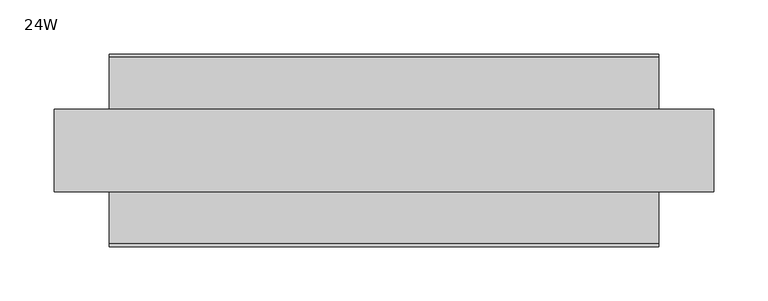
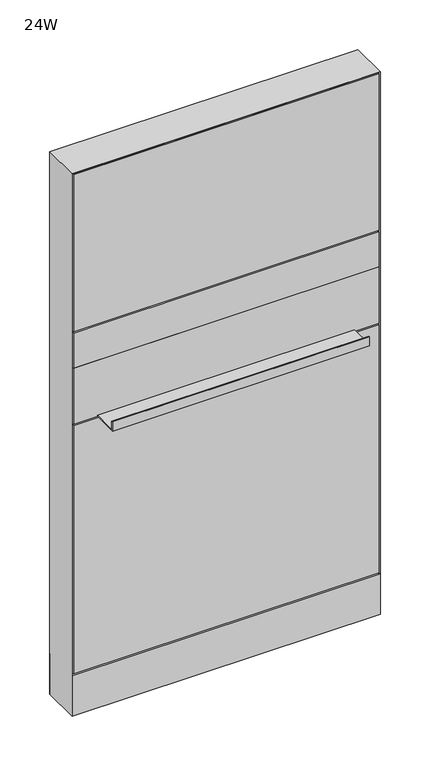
"""IFC4 building model written with IfcOpenShell, lengths in millimetres: furniture geometry, Steelcase - Montage - Frame - 45H - Enhanced Standard - Base and Desk-Height Cavity : 24W."""

from ifc_helpers import new_model, si_unit, point, frame, frame_2d, origin, origin_with_axes, place, context, project, spatial, polyline, circle_curve, trimmed, segment, composite_curve, outline, extrude, faceted_brep, source, transform, mapped, element, save


def furniture_24w_862c8a6d(model_context):
    return source(origin(), model_context, "Body", "SolidModel", [
        extrude(outline(polyline([(3.175, 31.7500194), (3.175, 38.1000194), (606.425, 38.1000194), (606.425, 31.7500194), (3.175, 31.7500194)])), frame((0.0, 0.0, 92.075), z_axis=(0.0, 0.0, 1.0), x_axis=(1.0, 0.0, 0.0)), (0.0, 0.0, 1.0), 517.525),
        extrude(outline(polyline([(88.8960768, 612.775), (38.0960752, 612.775), (38.0960752, 615.315), (86.3560768, 615.315), (86.3560768, 631.825), (88.8960768, 631.825), (88.8960768, 612.775)])), frame((50.8000015, 0.0, 0.0), z_axis=(1.0, 0.0, 0.0), x_axis=(0.0, 1.0, 0.0)), (0.0, 0.0, 1.0), 507.999997),
        extrude(outline(polyline([(3.175, 31.7460752), (3.175, 38.0960752), (606.425, 38.0960752), (606.425, 31.7460752), (3.175, 31.7460752)])), frame((0.0, 0.0, 730.2499516), z_axis=(0.0, 0.0, 1.0), x_axis=(1.0, 0.0, 0.0)), (0.0, 0.0, 1.0), 73.0250484),
        extrude(outline(polyline([(3.175, 31.7460752), (3.175, 38.0960752), (606.425, 38.0960752), (606.425, 31.7460752), (3.175, 31.7460752)])), frame((0.0, 0.0, 612.775), z_axis=(0.0, 0.0, 1.0), x_axis=(1.0, 0.0, 0.0)), (0.0, 0.0, 1.0), 117.4749516),
        extrude(outline(polyline([(3.175, 31.7500194), (3.175, 38.1000194), (606.425, 38.1000194), (606.425, 31.7500194), (3.175, 31.7500194)])), frame((0.0, 0.0, 806.45), z_axis=(0.0, 0.0, 1.0), x_axis=(1.0, 0.0, 0.0)), (0.0, 0.0, 1.0), 327.025),
        extrude(outline(polyline([(3.175, -31.7500194), (606.425, -31.7500194), (606.425, -38.1000194), (3.175, -38.1000194), (3.175, -31.7500194)])), frame((0.0, 0.0, 92.075), z_axis=(0.0, 0.0, 1.0), x_axis=(1.0, 0.0, 0.0)), (0.0, 0.0, 1.0), 517.525),
        extrude(outline(polyline([(-88.8960768, 612.775), (-88.8960768, 631.825), (-86.3560768, 631.825), (-86.3560768, 615.315), (-38.0960752, 615.315), (-38.0960752, 612.775), (-88.8960768, 612.775)])), frame((50.8000015, 0.0, 0.0), z_axis=(1.0, 0.0, 0.0), x_axis=(0.0, 1.0, 0.0)), (0.0, 0.0, 1.0), 507.999997),
        extrude(outline(polyline([(3.175, -31.7460752), (606.425, -31.7460752), (606.425, -38.0960752), (3.175, -38.0960752), (3.175, -31.7460752)])), frame((0.0, 0.0, 730.2499516), z_axis=(0.0, 0.0, 1.0), x_axis=(1.0, 0.0, 0.0)), (0.0, 0.0, 1.0), 73.0250484),
        extrude(outline(polyline([(3.175, -31.7460752), (606.425, -31.7460752), (606.425, -38.0960752), (3.175, -38.0960752), (3.175, -31.7460752)])), frame((0.0, 0.0, 612.775), z_axis=(0.0, 0.0, 1.0), x_axis=(1.0, 0.0, 0.0)), (0.0, 0.0, 1.0), 117.4749516),
        extrude(outline(polyline([(3.175, -31.7500194), (606.425, -31.7500194), (606.425, -38.1000194), (3.175, -38.1000194), (3.175, -31.7500194)])), frame((0.0, 0.0, 806.45), z_axis=(0.0, 0.0, 1.0), x_axis=(1.0, 0.0, 0.0)), (0.0, 0.0, 1.0), 327.025),
        extrude(outline(polyline([(603.2499879, 31.749953), (603.2499879, -31.7499985), (6.35, -31.7499985), (6.35, 31.749953), (603.2499879, 31.749953)])), frame((0.0, 0.0, 809.6250242), z_axis=(0.0, 0.0, 1.0), x_axis=(1.0, 0.0, 0.0)), (0.0, 0.0, 1.0), 320.6749273),
        extrude(outline(polyline([(603.2499879, 31.749953), (603.2499879, -31.7499985), (6.35, -31.7499985), (6.35, 31.749953), (603.2499879, 31.749953)])), frame((0.0, 0.0, 619.125), z_axis=(0.0, 0.0, 1.0), x_axis=(1.0, 0.0, 0.0)), (0.0, 0.0, 1.0), 177.8000242),
        extrude(outline(polyline([(603.2499879, 31.7500016), (603.2499879, -31.7499985), (6.35, -31.7499985), (6.35, 31.7500016), (603.2499879, 31.7500016)])), frame((0.0, 0.0, 88.899997), z_axis=(0.0, 0.0, 1.0), x_axis=(1.0, 0.0, 0.0)), (0.0, 0.0, 1.0), 517.525003),
        extrude(outline(polyline([(6.350003, -31.7499985), (603.249997, -31.7499985), (609.6, -38.1000015), (0.0, -38.1000015), (6.350003, -31.7499985)])), frame((0.0, 0.0, 4.064), z_axis=(0.0, 0.0, 1.0), x_axis=(1.0, 0.0, 0.0)), (0.0, 0.0, 1.0), 84.835997),
        extrude(outline(polyline([(6.3500002, 31.7500017), (0.0, 38.1000015), (609.6, 38.1000015), (603.2500002, 31.7500017), (6.3500002, 31.7500017)])), frame((0.0, 0.0, 4.064), z_axis=(0.0, 0.0, 1.0), x_axis=(1.0, 0.0, 0.0)), (0.0, 0.0, 1.0), 84.835997),
        faceted_brep([(609.6, -38.1000015, 1136.65), (0.0, -38.1000015, 1136.65), (6.3500484, -31.749953, 1130.2999516), (603.2499516, -31.749953, 1130.2999516), (6.3500484, 31.749953, 1130.2999516), (603.2499516, 31.749953, 1130.2999516), (0.0, 38.1000015, 1136.65), (609.6, 38.1000015, 1136.65)], [[[0, 1, 2, 3]], [[3, 2, 4, 5]], [[6, 7, 5, 4]], [[1, 0, 7, 6]], [[2, 1, 6, 4]], [[0, 3, 5, 7]]]),
        extrude(outline(composite_curve([segment(trimmed(circle_curve(frame_2d((44.45, 0.0)), 15.24), [point((29.21, 0.0))], [point((59.69, 0.0))], False, "CARTESIAN"), True, "CONTINUOUS"), segment(trimmed(circle_curve(frame_2d((44.45, 0.0)), 15.24), [point((59.69, 0.0))], [point((29.21, 0.0))], False, "CARTESIAN"), True, "CONTINUOUS")], self_intersect=False)), origin_with_axes(), (0.0, 0.0, 1.0), 4.064),
        extrude(outline(composite_curve([segment(trimmed(circle_curve(frame_2d((565.15, 0.0)), 15.24), [point((549.91, 0.0))], [point((580.39, 0.0))], False, "CARTESIAN"), True, "CONTINUOUS"), segment(trimmed(circle_curve(frame_2d((565.15, 0.0)), 15.24), [point((580.39, 0.0))], [point((549.91, 0.0))], False, "CARTESIAN"), True, "CONTINUOUS")], self_intersect=False)), origin_with_axes(), (0.0, 0.0, 1.0), 4.064),
        faceted_brep([(609.6, -38.1000106, 4.064), (609.6, 38.1000015, 4.064), (609.6, 38.1000015, 1136.65), (609.6, -38.1000106, 1136.6499637), (0.0, 38.1000015, 4.064), (0.0, -38.1000015, 4.064), (0.0, -38.1000015, 1136.65), (0.0, 38.1000015, 1136.65), (603.2499879, 31.7500017, 606.425), (6.35, 31.7500017, 606.425), (6.3499998, 31.7500017, 619.125), (603.2499879, 31.7500017, 619.125), (6.35, -31.7499985, 619.125), (603.2499879, -31.7499985, 619.125), (6.350003, -31.7499985, 606.425), (603.2499879, -31.7499985, 606.425), (603.2499879, 31.7500017, 796.9250242), (6.35, 31.7500017, 796.9250242), (6.3499998, 31.7500017, 809.6250242), (603.2499879, 31.7500017, 809.6250242), (6.35, -31.7499985, 809.6250242), (603.2499879, -31.7499985, 809.6250242), (6.350003, -31.7499985, 796.9250242), (603.2499879, -31.7499985, 796.9250242), (6.35, 31.7500015, 4.064), (6.35, -31.7500015, 4.064), (603.2499879, 31.7499894, 4.064), (603.2499879, -31.7499985, 4.064), (6.35, 31.7500015, 1130.3), (6.35, -31.7500015, 1130.3), (603.2499879, -31.7499985, 1130.2999516), (603.2499879, 31.7499896, 1130.2999516)], [[[0, 1, 2, 3]], [[4, 5, 6, 7]], [[8, 9, 10, 11]], [[11, 10, 12, 13]], [[13, 12, 14, 15]], [[9, 8, 15, 14]], [[16, 17, 18, 19]], [[19, 18, 20, 21]], [[21, 20, 22, 23]], [[17, 16, 23, 22]], [[24, 25, 5, 4]], [[26, 1, 0, 27]], [[24, 4, 7, 28, 18, 17, 10, 9]], [[5, 25, 14, 12, 22, 20, 29, 6]], [[20, 18, 28, 29]], [[25, 24, 9, 14]], [[10, 17, 22, 12]], [[19, 21, 30, 31]], [[26, 27, 15, 8]], [[16, 11, 13, 23]], [[27, 0, 3, 30, 21, 23, 13, 15]], [[1, 26, 8, 11, 16, 19, 31, 2]], [[7, 6, 29, 28]], [[3, 2, 31, 30]]]),
    ])


if __name__ == "__main__":
    model = new_model("IFC4")
    model_context = context("Model", 3, world=origin())
    ifc_project = project(units=[si_unit("LENGTHUNIT", "METRE", prefix="MILLI")], contexts=[model_context])
    site = spatial("IfcSite", under=ifc_project)
    building = spatial("IfcBuilding", under=site)
    placement = place(None, origin())
    furniture_24w_shape = furniture_24w_862c8a6d(model_context)
    element("IfcFurniture", 1, ObjectType="Steelcase - Montage - Frame - 45H - Enhanced Standard - Base and Desk-Height Cavity : 24W", at=placement, inside=building, context=model_context, shape_type="MappedRepresentation", body=[
        mapped(furniture_24w_shape, transform((0.0, 0.0, 0.0), x_axis=(1.0, 0.0, 0.0), y_axis=(0.0, 1.0, 0.0), z_axis=(0.0, 0.0, 1.0))),
    ])
    save(model, "model.ifc")
